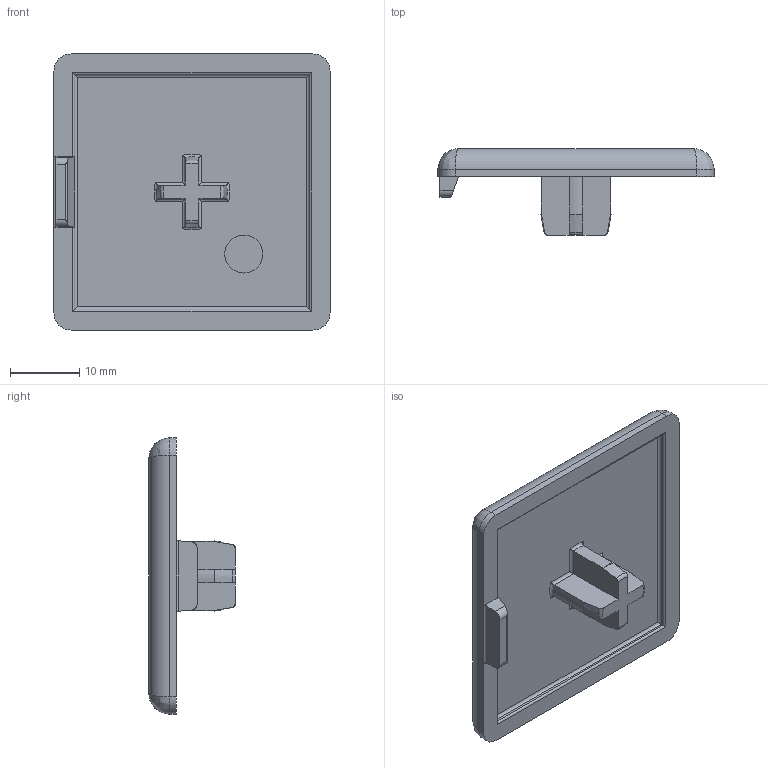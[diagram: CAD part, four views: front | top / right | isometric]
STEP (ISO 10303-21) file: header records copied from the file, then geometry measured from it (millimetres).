
FILE_DESCRIPTION(/* description */ ('STEP AP203'),/* implementation_level */ '2;1');
FILE_NAME(/* name */ '091046',/* time_stamp */ '2023-06-29T08:53:16+02:00',/* author */ ('License CC BY-ND 4.0'),/* organization */ ('CADENAS'),/* preprocessor_version */ 'ST-DEVELOPER v19.3',/* originating_system */ 'PARTsolutions',/* authorisation */ ' ');
FILE_SCHEMA (('CONFIG_CONTROL_DESIGN'));
Length unit declared in the file: millimetre
Products named in the file (1): 091046
Bounding box: 40 x 12.5 x 40 mm (x, y, z)
Volume: 5335.1 mm3; surface area: 4128.6 mm2
Topology: 1 solids, 1 shells, 80 faces, 198 edges, 118 vertices
Faces by surface type: cylinder 33, plane 27, torus 12, cone 4, bspline 4
Full cylindrical faces by diameter (mm): 5.5 x1
Entity records: 2451 total; most frequent: CARTESIAN_POINT 594, ORIENTED_EDGE 386, DIRECTION 375, EDGE_CURVE 193, AXIS2_PLACEMENT_3D 139, VERTEX_POINT 118, LINE 97, VECTOR 97
